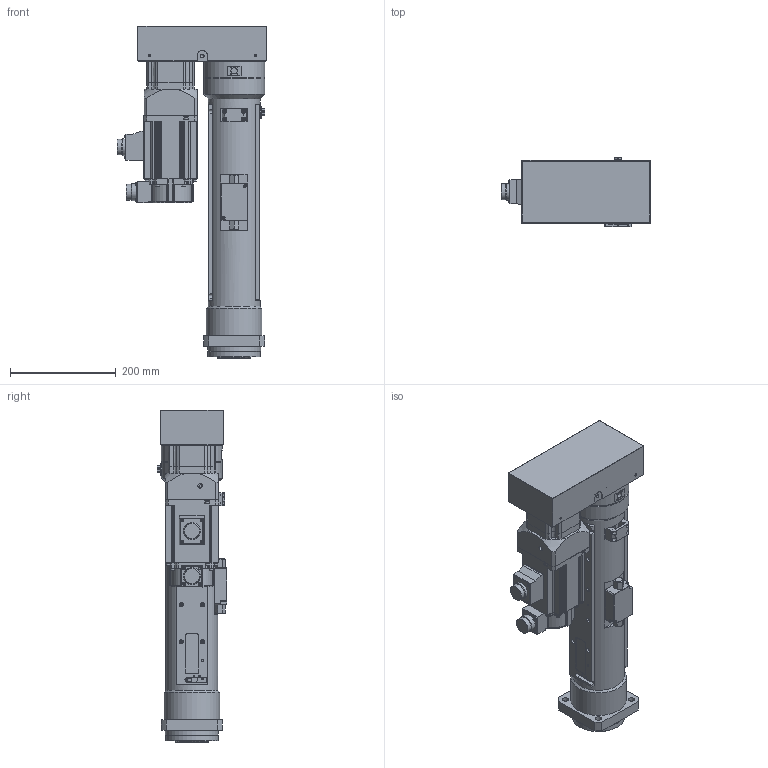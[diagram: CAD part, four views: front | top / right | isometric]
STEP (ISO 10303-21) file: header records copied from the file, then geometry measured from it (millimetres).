
FILE_DESCRIPTION( ('This file contains a STEP AP42 implementation' ,'as created by ZW3D STEP Interface translator.') ,'2;1' );
FILE_NAME( 'OACIS-DC-P010-300-200-A6_20.01.stp' ,'25 3 8. 929 5', (''), ('ZWCAD Software Co.'), 'Version 1.0', 'ZW3D to STEP translator', '' );
FILE_SCHEMA(('AUTOMOTIVE_DESIGN { 1 0 10303 214 1 1 1 1 }'));
Length unit declared in the file: millimetre
Products named in the file (2): 0; OACIS-DC-P010-300-200-A6_20.01
Bounding box: 283 x 131.5 x 626.5 mm (x, y, z)
Volume: 4709716.6 mm3; surface area: 1108165.2 mm2
Topology: 16 solids, 37 shells, 1783 faces, 4464 edges, 2894 vertices
Faces by surface type: cylinder 723, plane 714, cone 167, bspline 118, torus 40, sphere 21
Full cylindrical faces by diameter (mm): 1.6 x8, 2.459 x1, 3.3 x114, 4.2 x4, 4.3 x30, 4.5 x4, 5 x24, 5.5 x2, 5.6 x5, 6.8 x36, 7 x12, 8 x44, 8.4 x8, 8.5 x17, 9 x4, 9.5 x2, 11 x4, 12 x1, 15 x8, 15.5 x2, 16.5 x1, 18 x2, 18.917 x2, 19 x1, 25.4 x2, 26 x1, 27 x1, 29.75 x2, 31.75 x1, 31.9 x1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
Entity records: 58494 total; most frequent: CARTESIAN_POINT 14036, DIRECTION 8909, ORIENTED_EDGE 8617, EDGE_CURVE 4355, AXIS2_PLACEMENT_3D 3290, VERTEX_POINT 2832, VECTOR 2329, LINE 2329
